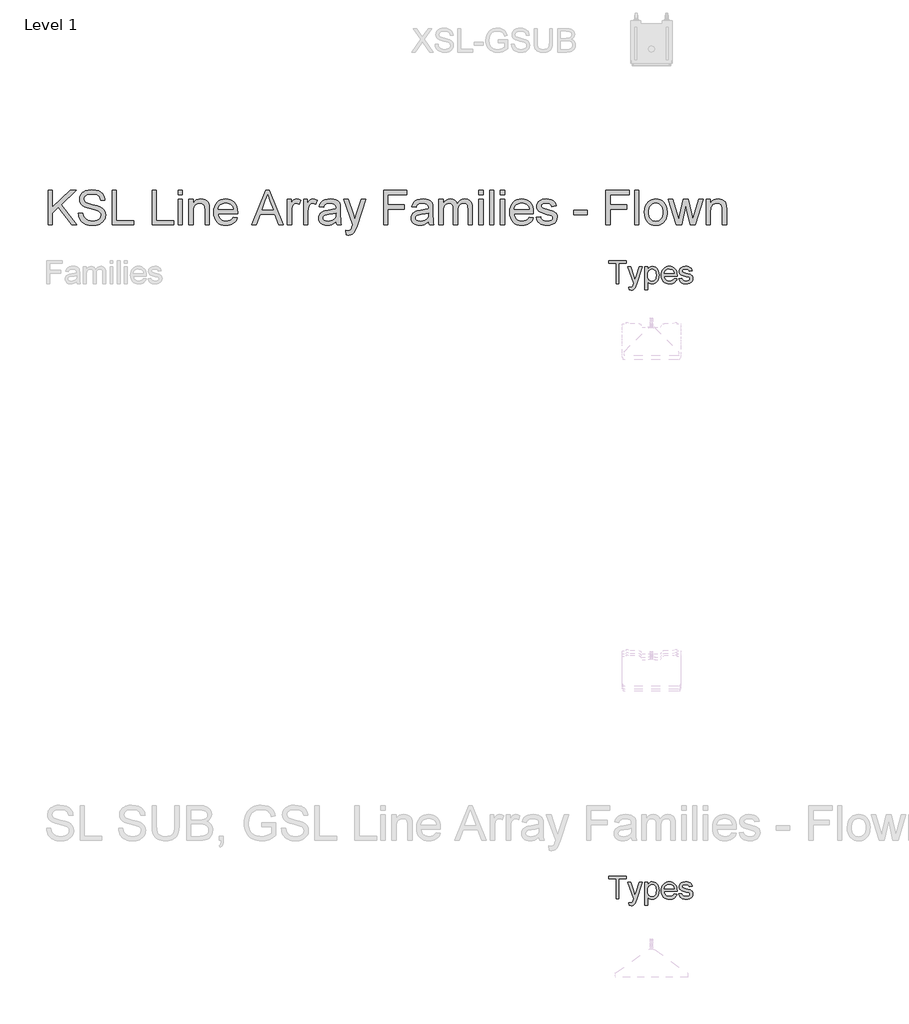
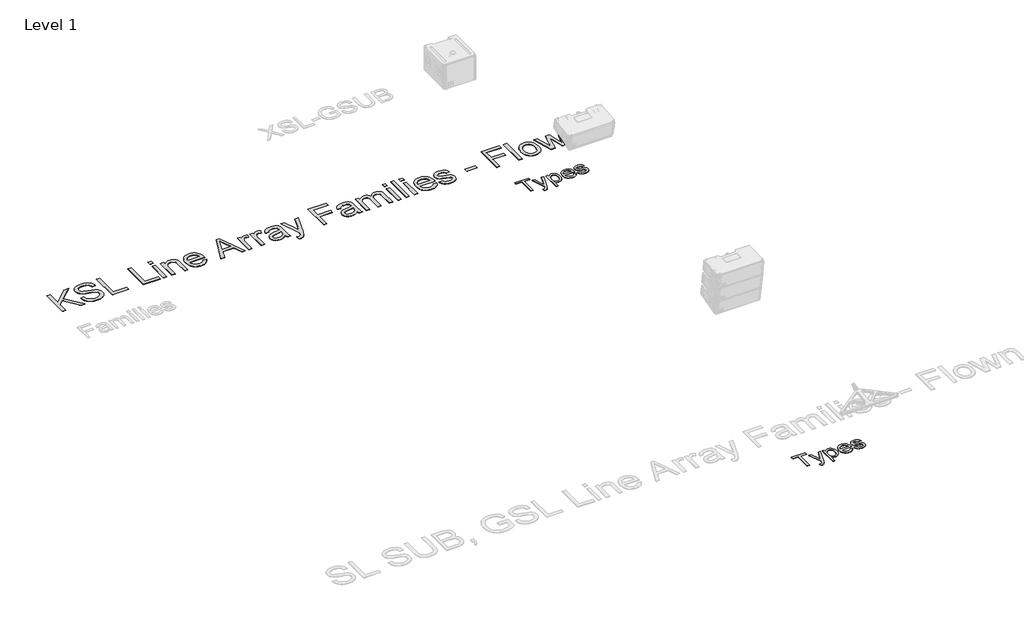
# One storey, part 26 of 52: 3 proxies.
"""IFC4 building model written with IfcOpenShell, lengths in millimetres."""

from ifc_helpers import new_model, si_unit, origin, origin_with_axes, place, context, project, spatial, polyline, outline, extrude, element, save

model = new_model("IFC4")

# Units and contexts
model_context = context("Model", 3, world=origin())
ifc_project = project(units=[si_unit("LENGTHUNIT", "METRE", prefix="MILLI")], contexts=[model_context])

# Site, building, storey
site = spatial("IfcSite", under=ifc_project)
building = spatial("IfcBuilding", under=site)
storey = spatial("IfcBuildingStorey", under=building, Name="Level 1", Elevation=0.0)

# Proxies
placement = place(None, origin())
element("IfcBuildingElementProxy", 1, Name="400mm Arial", ObjectType="400mm Arial", at=placement, inside=storey, context=model_context, shape_type="SweptSolid", body=[
    extrude(outline(polyline([(-11345.9583027, -3067.5695164), (-11345.9583027, -2724.7816376), (-11474.5037572, -2724.7816376), (-11474.5037572, -2675.8119407), (-11168.4431512, -2675.8119407), (-11168.4431512, -2724.7816376), (-11296.9886057, -2724.7816376), (-11296.9886057, -3067.5695164), (-11345.9583027, -3067.5695164)])), origin_with_axes(), (0.0, 0.0, 1.0), 5.0),
    extrude(outline(polyline([(-11119.4734542, -3177.7513346), (-11125.5946663, -3130.5988725), (-11100.7272421, -3134.9028498), (-11087.6479334, -3133.5518791), (-11077.4857648, -3129.4989672), (-11063.2348179, -3114.4350467), (-11049.8446663, -3078.3772816), (-11046.0189088, -3066.5174331), (-11150.0795148, -2779.8725467), (-11098.4317875, -2779.8725467), (-11043.2452345, -2939.5979255), (-11024.0208027, -3003.488077), (-11004.7963709, -2947.0581528), (-10948.0795148, -2779.8725467), (-10896.8143633, -2779.8725467), (-10996.9535679, -3074.4558801), (-11022.9687194, -3138.3460316), (-11036.2871379, -3158.7421017), (-11051.3749694, -3172.8734937), (-11068.9017213, -3181.1227835), (-11089.5369012, -3183.8725467), (-11119.4734542, -3177.7513346)])), origin_with_axes(), (0.0, 0.0, 1.0), 5.0),
    extrude(outline(polyline([(-10856.261333, -3177.7513346), (-10856.261333, -2779.8725467), (-10807.291636, -2779.8725467), (-10807.291636, -2827.8858043), (-10791.3190982, -2804.2019738), (-10773.4336815, -2787.284952), (-10752.5833027, -2777.134739), (-10727.7158785, -2773.7513346), (-10694.5991644, -2778.4857096), (-10665.6429618, -2792.6888346), (-10642.0667307, -2815.4999142), (-10625.0899315, -2846.0581528), (-10614.832119, -2882.1398289), (-10611.4128482, -2921.521221), (-10615.2744722, -2963.4013109), (-10626.8593444, -3000.8578687), (-10645.7968444, -3031.989971), (-10671.7163519, -3054.8966945), (-10701.9039703, -3068.99222), (-10733.6458027, -3073.6907285), (-10756.1579949, -3070.546434), (-10776.2551777, -3061.1135505), (-10793.4591313, -3046.874559), (-10807.291636, -3029.3119407), (-10807.291636, -3177.7513346), (-10856.261333, -3177.7513346)]), holes=[polyline([(-10807.291636, -2926.0164861), (-10801.9953529, -2969.9170543), (-10795.374999, -2986.9177645), (-10786.1065035, -3000.6187589), (-10762.6617828, -3018.6954634), (-10749.2447314, -3023.2146395), (-10734.697886, -3024.7210316), (-10719.9418195, -3023.1608398), (-10706.2796805, -3018.4802645), (-10682.2371853, -2999.7579634), (-10672.6757802, -2985.5608161), (-10665.8462052, -2967.9324426), (-10660.3825451, -2922.3820164), (-10665.7146947, -2878.7205581), (-10672.3798818, -2861.5883375), (-10681.7111436, -2847.5884558), (-10705.1199978, -2828.9378876), (-10718.3846166, -2824.2752456), (-10732.6893633, -2822.7210316), (-10746.9492769, -2824.3738784), (-10760.3663283, -2829.3324189), (-10784.6718444, -2849.1665808), (-10794.5680032, -2863.8867809), (-10801.6366881, -2881.6018318), (-10805.8778991, -2902.3117335), (-10807.291636, -2926.0164861)])]), origin_with_axes(), (0.0, 0.0, 1.0), 5.0),
    extrude(outline(polyline([(-10354.8958027, -2981.8725467), (-10306.8825451, -2987.9937589), (-10314.2441396, -3007.2241684), (-10324.1821427, -3024.1710789), (-10336.6965544, -3038.8344904), (-10351.7873747, -3051.2144028), (-10369.2991822, -3061.0477953), (-10389.0765555, -3068.0716471), (-10435.4279997, -3073.6907285), (-10465.8128837, -3071.2667525), (-10492.8860963, -3063.9948242), (-10516.6476375, -3051.8749437), (-10537.0975072, -3034.9071111), (-10553.5422871, -3013.5635683), (-10565.2885584, -2988.3165571), (-10572.3363212, -2959.1660777), (-10574.6855754, -2926.1121301), (-10572.3124102, -2891.937355), (-10565.1929144, -2861.8154918), (-10553.3270882, -2835.7465406), (-10536.7149315, -2813.7305013), (-10516.3188614, -2796.2396159), (-10493.1012951, -2783.7461263), (-10467.0622326, -2776.2500325), (-10438.2016739, -2773.7513346), (-10410.2706547, -2776.2440548), (-10385.0116881, -2783.7222153), (-10362.4247741, -2796.1858161), (-10342.5099125, -2813.6348573), (-10326.2534317, -2835.6030747), (-10314.6416597, -2861.6242039), (-10307.6745965, -2891.6982451), (-10305.3522421, -2925.8251982), (-10305.6391739, -2939.0240619), (-10525.7158785, -2939.0240619), (-10522.8794379, -2958.5653142), (-10517.2394343, -2975.6796017), (-10508.7958678, -2990.3669241), (-10497.5487383, -3002.6272816), (-10469.1305328, -3019.1975941), (-10434.4715603, -3024.7210316), (-10408.4085868, -3022.1625562), (-10386.4583027, -3014.4871301), (-10368.620708, -3001.2165335), (-10354.8958027, -2981.8725467)]), holes=[polyline([(-10525.7158785, -2890.0543649), (-10354.3219391, -2890.0543649), (-10360.9452819, -2864.1826793), (-10373.9289466, -2845.675577), (-10387.2832317, -2835.6329634), (-10402.4786625, -2828.4596679), (-10438.3929618, -2822.7210316), (-10471.4020764, -2827.2999852), (-10498.6964656, -2841.036846), (-10517.6698321, -2862.4491329), (-10525.7158785, -2890.0543649)])]), origin_with_axes(), (0.0, 0.0, 1.0), 5.0),
    extrude(outline(polyline([(-10274.7461815, -2981.8725467), (-10225.7764845, -2975.7513346), (-10218.0532364, -2996.6973573), (-10203.1088709, -3012.0960316), (-10180.847744, -3021.5647816), (-10151.1742118, -3024.7210316), (-10121.8593444, -3021.8278024), (-10101.2480754, -3013.1481149), (-10089.0534732, -3000.5709369), (-10084.9886057, -2985.9852361), (-10089.0773841, -2973.503702), (-10101.3437194, -2963.9871301), (-10151.7480754, -2950.0231149), (-10225.4895527, -2926.0643081), (-10244.1520764, -2914.0251272), (-10257.6737383, -2898.0884558), (-10265.8871616, -2879.2705107), (-10268.6249694, -2858.5875089), (-10266.4251588, -2839.6141424), (-10259.8257269, -2822.099346), (-10249.4244485, -2806.7365382), (-10235.8190982, -2794.2191376), (-10204.6869959, -2779.7290808), (-10162.5558406, -2773.7513346), (-10130.6824978, -2776.1543886), (-10102.9696663, -2783.3635505), (-10080.6846285, -2794.6734464), (-10065.0946663, -2809.378702), (-10054.7651209, -2828.5672674), (-10048.261333, -2853.3270922), (-10097.23103, -2859.4483043), (-10103.4120196, -2844.0376746), (-10115.6424883, -2832.4288914), (-10134.0419911, -2825.1479965), (-10158.730083, -2822.7210316), (-10186.8494012, -2825.0403971), (-10205.5956133, -2831.9984937), (-10216.1403576, -2842.0411073), (-10219.6552724, -2853.614024), (-10213.8209921, -2867.864971), (-10195.5529997, -2878.6727361), (-10153.3740224, -2889.0979255), (-10081.4976019, -2912.1481149), (-10062.51228, -2923.1710789), (-10048.1178671, -2938.2589104), (-10039.0436483, -2957.4594312), (-10036.0189088, -2980.8204634), (-10039.56969, -3004.9705581), (-10050.2220338, -3027.6859937), (-10067.5694533, -3047.1854018), (-10091.2054618, -3061.6874142), (-10119.7551777, -3070.6899), (-10151.8437194, -3073.6907285), (-10178.1996024, -3072.244114), (-10201.2199031, -3067.9042702), (-10220.9046214, -3060.6711973), (-10237.2537572, -3050.5448952), (-10250.6080423, -3037.5731859), (-10261.308208, -3021.8038914), (-10269.3542544, -3003.2370117), (-10274.7461815, -2981.8725467)])), origin_with_axes(), (0.0, 0.0, 1.0), 5.0),
])
element("IfcBuildingElementProxy", 2, Name="400mm Arial", ObjectType="400mm Arial", at=placement, inside=storey, context=model_context, shape_type="SweptSolid", body=[
    extrude(outline(polyline([(-11345.9583027, -13567.5695164), (-11345.9583027, -13224.7816376), (-11474.5037572, -13224.7816376), (-11474.5037572, -13175.8119407), (-11168.4431512, -13175.8119407), (-11168.4431512, -13224.7816376), (-11296.9886057, -13224.7816376), (-11296.9886057, -13567.5695164), (-11345.9583027, -13567.5695164)])), origin_with_axes(), (0.0, 0.0, 1.0), 5.0),
    extrude(outline(polyline([(-11119.4734542, -13677.7513346), (-11125.5946663, -13630.5988725), (-11100.7272421, -13634.9028498), (-11087.6479334, -13633.5518791), (-11077.4857648, -13629.4989672), (-11063.2348179, -13614.4350467), (-11049.8446663, -13578.3772816), (-11046.0189088, -13566.5174331), (-11150.0795148, -13279.8725467), (-11098.4317875, -13279.8725467), (-11043.2452345, -13439.5979255), (-11024.0208027, -13503.488077), (-11004.7963709, -13447.0581528), (-10948.0795148, -13279.8725467), (-10896.8143633, -13279.8725467), (-10996.9535679, -13574.4558801), (-11022.9687194, -13638.3460316), (-11036.2871379, -13658.7421017), (-11051.3749694, -13672.8734937), (-11068.9017213, -13681.1227835), (-11089.5369012, -13683.8725467), (-11119.4734542, -13677.7513346)])), origin_with_axes(), (0.0, 0.0, 1.0), 5.0),
    extrude(outline(polyline([(-10856.261333, -13677.7513346), (-10856.261333, -13279.8725467), (-10807.291636, -13279.8725467), (-10807.291636, -13327.8858043), (-10791.3190982, -13304.2019738), (-10773.4336815, -13287.284952), (-10752.5833027, -13277.134739), (-10727.7158785, -13273.7513346), (-10694.5991644, -13278.4857096), (-10665.6429618, -13292.6888346), (-10642.0667307, -13315.4999142), (-10625.0899315, -13346.0581528), (-10614.832119, -13382.1398289), (-10611.4128482, -13421.521221), (-10615.2744722, -13463.4013109), (-10626.8593444, -13500.8578687), (-10645.7968444, -13531.989971), (-10671.7163519, -13554.8966945), (-10701.9039703, -13568.99222), (-10733.6458027, -13573.6907285), (-10756.1579949, -13570.546434), (-10776.2551777, -13561.1135505), (-10793.4591313, -13546.874559), (-10807.291636, -13529.3119407), (-10807.291636, -13677.7513346), (-10856.261333, -13677.7513346)]), holes=[polyline([(-10807.291636, -13426.0164861), (-10801.9953529, -13469.9170543), (-10795.374999, -13486.9177645), (-10786.1065035, -13500.6187589), (-10762.6617828, -13518.6954634), (-10749.2447314, -13523.2146395), (-10734.697886, -13524.7210316), (-10719.9418195, -13523.1608398), (-10706.2796805, -13518.4802645), (-10682.2371853, -13499.7579634), (-10672.6757802, -13485.5608161), (-10665.8462052, -13467.9324426), (-10660.3825451, -13422.3820164), (-10665.7146947, -13378.7205581), (-10672.3798818, -13361.5883375), (-10681.7111436, -13347.5884558), (-10705.1199978, -13328.9378876), (-10718.3846166, -13324.2752456), (-10732.6893633, -13322.7210316), (-10746.9492769, -13324.3738784), (-10760.3663283, -13329.3324189), (-10784.6718444, -13349.1665808), (-10794.5680032, -13363.8867809), (-10801.6366881, -13381.6018318), (-10805.8778991, -13402.3117335), (-10807.291636, -13426.0164861)])]), origin_with_axes(), (0.0, 0.0, 1.0), 5.0),
    extrude(outline(polyline([(-10354.8958027, -13481.8725467), (-10306.8825451, -13487.9937589), (-10314.2441396, -13507.2241684), (-10324.1821427, -13524.1710789), (-10336.6965544, -13538.8344904), (-10351.7873747, -13551.2144028), (-10369.2991822, -13561.0477953), (-10389.0765555, -13568.0716471), (-10435.4279997, -13573.6907285), (-10465.8128837, -13571.2667525), (-10492.8860963, -13563.9948242), (-10516.6476375, -13551.8749437), (-10537.0975072, -13534.9071111), (-10553.5422871, -13513.5635683), (-10565.2885584, -13488.3165571), (-10572.3363212, -13459.1660777), (-10574.6855754, -13426.1121301), (-10572.3124102, -13391.937355), (-10565.1929144, -13361.8154918), (-10553.3270882, -13335.7465406), (-10536.7149315, -13313.7305013), (-10516.3188614, -13296.2396159), (-10493.1012951, -13283.7461263), (-10467.0622326, -13276.2500325), (-10438.2016739, -13273.7513346), (-10410.2706547, -13276.2440548), (-10385.0116881, -13283.7222153), (-10362.4247741, -13296.1858161), (-10342.5099125, -13313.6348573), (-10326.2534317, -13335.6030747), (-10314.6416597, -13361.6242039), (-10307.6745965, -13391.6982451), (-10305.3522421, -13425.8251982), (-10305.6391739, -13439.0240619), (-10525.7158785, -13439.0240619), (-10522.8794379, -13458.5653142), (-10517.2394343, -13475.6796017), (-10508.7958678, -13490.3669241), (-10497.5487383, -13502.6272816), (-10469.1305328, -13519.1975941), (-10434.4715603, -13524.7210316), (-10408.4085868, -13522.1625562), (-10386.4583027, -13514.4871301), (-10368.620708, -13501.2165335), (-10354.8958027, -13481.8725467)]), holes=[polyline([(-10525.7158785, -13390.0543649), (-10354.3219391, -13390.0543649), (-10360.9452819, -13364.1826793), (-10373.9289466, -13345.675577), (-10387.2832317, -13335.6329634), (-10402.4786625, -13328.4596679), (-10438.3929618, -13322.7210316), (-10471.4020764, -13327.2999852), (-10498.6964656, -13341.036846), (-10517.6698321, -13362.4491329), (-10525.7158785, -13390.0543649)])]), origin_with_axes(), (0.0, 0.0, 1.0), 5.0),
    extrude(outline(polyline([(-10274.7461815, -13481.8725467), (-10225.7764845, -13475.7513346), (-10218.0532364, -13496.6973573), (-10203.1088709, -13512.0960316), (-10180.847744, -13521.5647816), (-10151.1742118, -13524.7210316), (-10121.8593444, -13521.8278024), (-10101.2480754, -13513.1481149), (-10089.0534732, -13500.5709369), (-10084.9886057, -13485.9852361), (-10089.0773841, -13473.503702), (-10101.3437194, -13463.9871301), (-10151.7480754, -13450.0231149), (-10225.4895527, -13426.0643081), (-10244.1520764, -13414.0251272), (-10257.6737383, -13398.0884558), (-10265.8871616, -13379.2705107), (-10268.6249694, -13358.5875089), (-10266.4251588, -13339.6141424), (-10259.8257269, -13322.099346), (-10249.4244485, -13306.7365382), (-10235.8190982, -13294.2191376), (-10204.6869959, -13279.7290808), (-10162.5558406, -13273.7513346), (-10130.6824978, -13276.1543886), (-10102.9696663, -13283.3635505), (-10080.6846285, -13294.6734464), (-10065.0946663, -13309.378702), (-10054.7651209, -13328.5672674), (-10048.261333, -13353.3270922), (-10097.23103, -13359.4483043), (-10103.4120196, -13344.0376746), (-10115.6424883, -13332.4288914), (-10134.0419911, -13325.1479965), (-10158.730083, -13322.7210316), (-10186.8494012, -13325.0403971), (-10205.5956133, -13331.9984937), (-10216.1403576, -13342.0411073), (-10219.6552724, -13353.614024), (-10213.8209921, -13367.864971), (-10195.5529997, -13378.6727361), (-10153.3740224, -13389.0979255), (-10081.4976019, -13412.1481149), (-10062.51228, -13423.1710789), (-10048.1178671, -13438.2589104), (-10039.0436483, -13457.4594312), (-10036.0189088, -13480.8204634), (-10039.56969, -13504.9705581), (-10050.2220338, -13527.6859937), (-10067.5694533, -13547.1854018), (-10091.2054618, -13561.6874142), (-10119.7551777, -13570.6899), (-10151.8437194, -13573.6907285), (-10178.1996024, -13572.244114), (-10201.2199031, -13567.9042702), (-10220.9046214, -13560.6711973), (-10237.2537572, -13550.5448952), (-10250.6080423, -13537.5731859), (-10261.308208, -13521.8038914), (-10269.3542544, -13503.2370117), (-10274.7461815, -13481.8725467)])), origin_with_axes(), (0.0, 0.0, 1.0), 5.0),
])
element("IfcBuildingElementProxy", 3, Name="600mm Arial", ObjectType="600mm Arial", at=placement, inside=storey, context=model_context, shape_type="SweptSolid", body=[
    extrude(outline(polyline([(-21034.9539913, -2067.5695164), (-21034.9539913, -1476.8002857), (-20961.1078374, -1476.8002857), (-20961.1078374, -1765.982978), (-20658.223222, -1476.8002857), (-20554.9539913, -1476.8002857), (-20809.2328374, -1719.684901), (-20545.723222, -2067.5695164), (-20636.0116836, -2067.5695164), (-20861.5886067, -1769.5887472), (-20961.1078374, -1864.4925934), (-20961.1078374, -2067.5695164), (-21034.9539913, -2067.5695164)])), origin_with_axes(), (0.0, 0.0, 1.0), 5.0),
    extrude(outline(polyline([(-20518.0309143, -1864.4925934), (-20444.1847605, -1864.4925934), (-20435.7112028, -1905.4721607), (-20420.3866836, -1938.4108626), (-20396.4804336, -1964.5526895), (-20362.2616836, -1985.1416318), (-20320.4347605, -1998.5010068), (-20273.7039913, -2002.9541318), (-20232.5621643, -1999.5827376), (-20196.5405297, -1989.4685549), (-20167.3518278, -1973.4589395), (-20146.708799, -1952.4012472), (-20134.4311547, -1928.2245645), (-20130.3386067, -1902.857978), (-20133.4035105, -1878.1404299), (-20142.598222, -1856.7762472), (-20161.2761067, -1838.5490837), (-20192.7905297, -1823.2425934), (-20300.3145682, -1795.045478), (-20370.8975009, -1776.3856222), (-20416.0597605, -1758.6272087), (-20452.8205778, -1733.7834587), (-20478.8722605, -1703.6752857), (-20494.395097, -1668.951728), (-20499.5693759, -1630.2618241), (-20497.9693158, -1608.271139), (-20493.1691355, -1587.0106222), (-20485.168835, -1566.4802736), (-20473.9684143, -1546.6800934), (-20459.6940754, -1528.4168722), (-20442.4720201, -1512.497401), (-20422.3022485, -1498.9216799), (-20399.1847605, -1487.6897087), (-20347.2256259, -1472.5995645), (-20289.7136067, -1467.5695164), (-20227.4059143, -1472.8339395), (-20172.8866836, -1488.6272087), (-20149.0345201, -1500.3910309), (-20128.1030297, -1514.6248049), (-20110.0922124, -1531.3285309), (-20095.0020682, -1550.5022087), (-20082.9497845, -1571.5869443), (-20074.052549, -1594.0238434), (-20068.3103615, -1617.8129059), (-20065.723222, -1642.9541318), (-20139.5693759, -1642.9541318), (-20144.5092797, -1619.3904299), (-20153.1270682, -1598.8916318), (-20165.4227413, -1581.4577376), (-20181.396299, -1567.0887472), (-20201.3452172, -1555.856776), (-20225.566972, -1547.8339395), (-20254.0615634, -1543.0202376), (-20286.8289913, -1541.4156703), (-20320.6420922, -1543.0022087), (-20349.5333182, -1547.7618241), (-20373.5026692, -1555.6945164), (-20392.5501451, -1566.8002857), (-20407.0633663, -1580.1506462), (-20417.4299528, -1594.8171126), (-20423.6499047, -1610.7996847), (-20425.723222, -1628.0983626), (-20419.8458182, -1656.4757664), (-20402.2136067, -1679.3002857), (-20386.0237028, -1689.450526), (-20360.5309143, -1699.7089395), (-20281.6366836, -1720.5502857), (-20200.2184143, -1740.3459587), (-20150.9636067, -1757.6175934), (-20108.8662509, -1784.4084587), (-20092.59071, -1800.1566559), (-20079.4972605, -1817.4733626), (-20069.4326571, -1836.2684347), (-20062.2436547, -1856.451728), (-20056.4924528, -1900.982978), (-20058.1465994, -1924.0824371), (-20063.1090393, -1946.5058145), (-20071.3797725, -1968.2531102), (-20082.958799, -1989.3243241), (-20097.6432942, -2008.903651), (-20115.2304336, -2026.1752857), (-20135.7202172, -2041.139228), (-20159.1126451, -2053.795478), (-20184.7271283, -2063.8600813), (-20211.8830778, -2071.0490837), (-20270.8193759, -2076.8002857), (-20308.5943158, -2075.2498049), (-20343.1691355, -2070.5983626), (-20374.543835, -2062.8459587), (-20402.7184143, -2051.9925934), (-20427.8641475, -2038.0202376), (-20450.1523086, -2020.9108626), (-20469.5828975, -2000.6644684), (-20486.1559143, -1977.2810549), (-20499.5062749, -1951.5178337), (-20509.2688951, -1924.1320164), (-20515.4437749, -1895.123603), (-20518.0309143, -1864.4925934)])), origin_with_axes(), (0.0, 0.0, 1.0), 5.0),
    extrude(outline(polyline([(-19945.723222, -2067.5695164), (-19945.723222, -1476.8002857), (-19871.8770682, -1476.8002857), (-19871.8770682, -1993.7233626), (-19576.4924528, -1993.7233626), (-19576.4924528, -2067.5695164), (-19945.723222, -2067.5695164)])), origin_with_axes(), (0.0, 0.0, 1.0), 5.0),
    extrude(outline(polyline([(-19262.646299, -2067.5695164), (-19262.646299, -1476.8002857), (-19188.8001451, -1476.8002857), (-19188.8001451, -1993.7233626), (-18893.4155297, -1993.7233626), (-18893.4155297, -2067.5695164), (-19262.646299, -2067.5695164)])), origin_with_axes(), (0.0, 0.0, 1.0), 5.0),
    extrude(outline(polyline([(-18819.5693759, -1550.6464395), (-18819.5693759, -1476.8002857), (-18745.723222, -1476.8002857), (-18745.723222, -1550.6464395), (-18819.5693759, -1550.6464395)])), origin_with_axes(), (0.0, 0.0, 1.0), 5.0),
    extrude(outline(polyline([(-18819.5693759, -2067.5695164), (-18819.5693759, -1633.7233626), (-18745.723222, -1633.7233626), (-18745.723222, -2067.5695164), (-18819.5693759, -2067.5695164)])), origin_with_axes(), (0.0, 0.0, 1.0), 5.0),
    extrude(outline(polyline([(-18634.9539913, -2067.5695164), (-18634.9539913, -1633.7233626), (-18561.1078374, -1633.7233626), (-18561.1078374, -1694.3002857), (-18535.4527893, -1663.7594203), (-18504.6414913, -1641.9445164), (-18468.6739432, -1628.8555741), (-18427.5501451, -1624.4925934), (-18391.1499047, -1628.0082184), (-18357.8145682, -1638.5550934), (-18330.0140874, -1654.8171126), (-18310.2184143, -1675.4781703), (-18296.786924, -1700.4841799), (-18288.0789913, -1729.7810549), (-18284.1847605, -1801.1752857), (-18284.1847605, -2067.5695164), (-18358.0309143, -2067.5695164), (-18358.0309143, -1811.1272087), (-18360.1583182, -1772.9421126), (-18366.5405297, -1745.7906703), (-18378.3133663, -1726.3375453), (-18396.6126451, -1711.247401), (-18420.068174, -1701.5659107), (-18447.3097605, -1698.3387472), (-18469.7331379, -1700.1506462), (-18490.5609624, -1705.5863434), (-18509.7932341, -1714.6458385), (-18527.4299528, -1727.3291318), (-18542.1640273, -1745.0785309), (-18552.6883663, -1769.3363434), (-18559.0029696, -1800.1025693), (-18561.1078374, -1837.3772087), (-18561.1078374, -2067.5695164), (-18634.9539913, -2067.5695164)])), origin_with_axes(), (0.0, 0.0, 1.0), 5.0),
    extrude(outline(polyline([(-17878.896299, -1938.3387472), (-17806.4924528, -1947.5695164), (-17817.5937148, -1976.5689155), (-17832.5801932, -2002.1248049), (-17851.4518879, -2024.2371847), (-17874.208799, -2042.9060549), (-17900.6165514, -2057.7347809), (-17930.4407701, -2068.326728), (-17963.6814552, -2074.6818962), (-18000.3386067, -2076.8002857), (-18046.1589192, -2073.1449371), (-18086.9852413, -2062.1788914), (-18122.817573, -2043.9021486), (-18153.6559143, -2018.3147087), (-18178.4545922, -1986.1287111), (-18196.1679336, -1948.0562953), (-18206.7959384, -1904.0974611), (-18210.3386067, -1854.2522087), (-18206.7598807, -1802.716752), (-18196.0237028, -1757.2930741), (-18178.130073, -1717.9811751), (-18153.0789913, -1684.7810549), (-18122.3217797, -1658.404853), (-18087.3097605, -1639.5647087), (-18048.0429336, -1628.2606222), (-18004.521299, -1624.4925934), (-17962.4014071, -1628.2516078), (-17924.3109624, -1639.528651), (-17890.2499648, -1658.3237232), (-17860.2184143, -1684.6368241), (-17835.7036908, -1717.7648289), (-17818.193174, -1757.0046126), (-17807.6868639, -1802.3561751), (-17804.1847605, -1853.8195164), (-17804.6174528, -1873.7233626), (-18136.4924528, -1873.7233626), (-18132.2151091, -1903.1915116), (-18123.7100009, -1928.9998049), (-18110.9771283, -1951.1482424), (-18094.0164913, -1969.6368241), (-18073.7655898, -1984.2131462), (-18051.161924, -1994.6248049), (-18026.2054937, -2000.8718001), (-17998.896299, -2002.9541318), (-17959.5934143, -1999.0959587), (-17926.4924528, -1987.5214395), (-17899.5934143, -1967.5094203), (-17878.896299, -1938.3387472)]), holes=[polyline([(-18136.4924528, -1799.8772087), (-17878.0309143, -1799.8772087), (-17888.0188951, -1760.8627857), (-17896.6096403, -1745.5202376), (-17907.598222, -1732.9541318), (-17927.7364432, -1717.809901), (-17950.6511067, -1706.9925934), (-17976.3422124, -1700.5022087), (-18004.8097605, -1698.3387472), (-18030.7758062, -1700.0650092), (-18054.5874047, -1705.2437953), (-18076.2445562, -1713.8751054), (-18095.7472605, -1725.9589395), (-18112.1129456, -1740.9364034), (-18124.3590393, -1758.248603), (-18132.4855417, -1777.8955381), (-18136.4924528, -1799.8772087)])]), origin_with_axes(), (0.0, 0.0, 1.0), 5.0),
    extrude(outline(polyline([(-17559.1366836, -2067.5695164), (-17323.3193759, -1476.8002857), (-17260.4347605, -1476.8002857), (-17024.6174528, -2067.5695164), (-17102.646299, -2067.5695164), (-17170.2905297, -1882.9541318), (-17413.6078374, -1882.9541318), (-17481.1078374, -2067.5695164), (-17559.1366836, -2067.5695164)]), holes=[polyline([(-17386.4924528, -1809.107978), (-17197.2616836, -1809.107978), (-17250.4828374, -1663.8675934), (-17291.8770682, -1550.6464395), (-17328.6559143, -1651.1752857), (-17386.4924528, -1809.107978)])]), origin_with_axes(), (0.0, 0.0, 1.0), 5.0),
    extrude(outline(polyline([(-16954.9539913, -2067.5695164), (-16954.9539913, -1633.7233626), (-16890.3386067, -1633.7233626), (-16890.3386067, -1697.9060549), (-16866.4684143, -1660.6945164), (-16844.473222, -1638.7714395), (-16822.4059143, -1628.0623049), (-16798.3193759, -1624.4925934), (-16761.5405297, -1630.1897087), (-16724.1847605, -1647.2810549), (-16748.848222, -1713.482978), (-16774.8097605, -1702.1248049), (-16800.771299, -1698.3387472), (-16822.8205778, -1701.9805741), (-16842.5261067, -1712.9060549), (-16858.4455778, -1730.2858626), (-16869.1366836, -1753.2906703), (-16878.115049, -1794.5406703), (-16881.1078374, -1839.5406703), (-16881.1078374, -2067.5695164), (-16954.9539913, -2067.5695164)])), origin_with_axes(), (0.0, 0.0, 1.0), 5.0),
    extrude(outline(polyline([(-16678.0309143, -2067.5695164), (-16678.0309143, -1633.7233626), (-16613.4155297, -1633.7233626), (-16613.4155297, -1697.9060549), (-16589.5453374, -1660.6945164), (-16567.5501451, -1638.7714395), (-16545.4828374, -1628.0623049), (-16521.396299, -1624.4925934), (-16484.6174528, -1630.1897087), (-16447.2616836, -1647.2810549), (-16471.9251451, -1713.482978), (-16497.8866836, -1702.1248049), (-16523.848222, -1698.3387472), (-16545.8975009, -1701.9805741), (-16565.6030297, -1712.9060549), (-16581.5225009, -1730.2858626), (-16592.2136067, -1753.2906703), (-16601.191972, -1794.5406703), (-16604.1847605, -1839.5406703), (-16604.1847605, -2067.5695164), (-16678.0309143, -2067.5695164)])), origin_with_axes(), (0.0, 0.0, 1.0), 5.0),
    extrude(outline(polyline([(-16124.1847605, -2012.184901), (-16159.4672124, -2042.4373049), (-16195.7953374, -2062.232978), (-16233.9984624, -2073.1584587), (-16274.9059143, -2076.8002857), (-16307.7860225, -2074.6097809), (-16336.6186547, -2068.0382664), (-16361.403811, -2057.0857424), (-16382.1414913, -2041.7522087), (-16398.5161908, -2023.0112232), (-16410.2124047, -2001.8363434), (-16417.2301331, -1978.2275693), (-16419.5693759, -1952.184901), (-16416.035722, -1921.5719203), (-16405.4347605, -1893.7714395), (-16389.082597, -1869.9733626), (-16368.2953374, -1851.3675934), (-16343.8662509, -1837.3050934), (-16316.5886067, -1827.1368241), (-16252.6943759, -1816.0310549), (-16177.1895682, -1804.3483626), (-16124.6174528, -1790.6464395), (-16124.1847605, -1774.2041318), (-16129.2688951, -1741.247401), (-16135.6240634, -1729.0418722), (-16144.521299, -1719.684901), (-16159.8999047, -1710.3459587), (-16178.6318759, -1703.6752857), (-16226.1559143, -1698.3387472), (-16270.146299, -1701.8904299), (-16300.8674528, -1712.545478), (-16321.816972, -1732.2510068), (-16336.4924528, -1762.9541318), (-16410.3386067, -1753.7233626), (-16397.520097, -1713.3387472), (-16378.3914913, -1681.607978), (-16351.1679336, -1657.341151), (-16314.0645682, -1639.3483626), (-16268.6859624, -1628.2065357), (-16216.6366836, -1624.4925934), (-16166.7148086, -1627.7738434), (-16127.1414913, -1637.6175934), (-16097.3037509, -1652.419276), (-16076.5886067, -1670.5743241), (-16062.8506259, -1693.0202376), (-16053.9443759, -1720.6945164), (-16050.3386067, -1785.309901), (-16050.3386067, -1877.184901), (-16046.5886067, -2005.4781703), (-16041.035722, -2037.1909107), (-16031.8770682, -2067.5695164), (-16105.723222, -2067.5695164), (-16117.5501451, -2041.8964395), (-16124.1847605, -2012.184901)]), holes=[polyline([(-16124.1847605, -1864.4925934), (-16173.8001451, -1876.7882664), (-16243.3193759, -1887.1368241), (-16306.8530297, -1899.107978), (-16323.3854817, -1907.2930741), (-16335.6270682, -1918.5791318), (-16343.1991836, -1932.1007664), (-16345.723222, -1946.9925934), (-16340.224424, -1968.951728), (-16323.7280297, -1986.9445164), (-16296.5946163, -1998.951728), (-16259.1847605, -2002.9541318), (-16219.521299, -1998.5370645), (-16184.473222, -1985.2858626), (-16156.0597605, -1965.7606222), (-16136.3001451, -1942.5214395), (-16127.5381259, -1918.5791318), (-16124.6174528, -1885.4060549), (-16124.1847605, -1864.4925934)])]), origin_with_axes(), (0.0, 0.0, 1.0), 5.0),
    extrude(outline(polyline([(-15948.8001451, -2233.7233626), (-15958.0309143, -2162.6175934), (-15920.5309143, -2169.107978), (-15900.8073567, -2167.0707184), (-15885.4828374, -2160.9589395), (-15873.5477413, -2151.2053337), (-15863.9924528, -2138.2425934), (-15843.8001451, -2083.8675934), (-15838.0309143, -2065.982978), (-15994.9539913, -1633.7233626), (-15917.0693759, -1633.7233626), (-15833.848222, -1874.5887472), (-15804.8578374, -1970.934901), (-15775.8674528, -1885.8387472), (-15690.3386067, -1633.7233626), (-15613.0309143, -1633.7233626), (-15764.0405297, -2077.9541318), (-15803.271299, -2174.3002857), (-15823.3554336, -2205.0574972), (-15846.1078374, -2226.3675934), (-15872.5381259, -2238.8074972), (-15903.6559143, -2242.9541318), (-15925.0381259, -2240.6464395), (-15948.8001451, -2233.7233626)])), origin_with_axes(), (0.0, 0.0, 1.0), 5.0),
    extrude(outline(polyline([(-15311.8770682, -2067.5695164), (-15311.8770682, -1476.8002857), (-14914.9539913, -1476.8002857), (-14914.9539913, -1550.6464395), (-15238.0309143, -1550.6464395), (-15238.0309143, -1726.0310549), (-14961.1078374, -1726.0310549), (-14961.1078374, -1799.8772087), (-15238.0309143, -1799.8772087), (-15238.0309143, -2067.5695164), (-15311.8770682, -2067.5695164)])), origin_with_axes(), (0.0, 0.0, 1.0), 5.0),
    extrude(outline(polyline([(-14545.723222, -2012.184901), (-14581.005674, -2042.4373049), (-14617.333799, -2062.232978), (-14655.536924, -2073.1584587), (-14696.4443759, -2076.8002857), (-14729.3244841, -2074.6097809), (-14758.1571163, -2068.0382664), (-14782.9422725, -2057.0857424), (-14803.6799528, -2041.7522087), (-14820.0546523, -2023.0112232), (-14831.7508663, -2001.8363434), (-14838.7685946, -1978.2275693), (-14841.1078374, -1952.184901), (-14837.5741836, -1921.5719203), (-14826.973222, -1893.7714395), (-14810.6210586, -1869.9733626), (-14789.833799, -1851.3675934), (-14765.4047124, -1837.3050934), (-14738.1270682, -1827.1368241), (-14674.2328374, -1816.0310549), (-14598.7280297, -1804.3483626), (-14546.1559143, -1790.6464395), (-14545.723222, -1774.2041318), (-14550.8073567, -1741.247401), (-14557.1625249, -1729.0418722), (-14566.0597605, -1719.684901), (-14581.4383663, -1710.3459587), (-14600.1703374, -1703.6752857), (-14647.6943759, -1698.3387472), (-14691.6847605, -1701.8904299), (-14722.4059143, -1712.545478), (-14743.3554336, -1732.2510068), (-14758.0309143, -1762.9541318), (-14831.8770682, -1753.7233626), (-14819.0585586, -1713.3387472), (-14799.9299528, -1681.607978), (-14772.7063951, -1657.341151), (-14735.6030297, -1639.3483626), (-14690.224424, -1628.2065357), (-14638.1751451, -1624.4925934), (-14588.2532701, -1627.7738434), (-14548.6799528, -1637.6175934), (-14518.8422124, -1652.419276), (-14498.1270682, -1670.5743241), (-14484.3890874, -1693.0202376), (-14475.4828374, -1720.6945164), (-14471.8770682, -1785.309901), (-14471.8770682, -1877.184901), (-14468.1270682, -2005.4781703), (-14462.5741836, -2037.1909107), (-14453.4155297, -2067.5695164), (-14527.2616836, -2067.5695164), (-14539.0886067, -2041.8964395), (-14545.723222, -2012.184901)]), holes=[polyline([(-14545.723222, -1864.4925934), (-14595.3386067, -1876.7882664), (-14664.8578374, -1887.1368241), (-14728.3914913, -1899.107978), (-14744.9239432, -1907.2930741), (-14757.1655297, -1918.5791318), (-14764.7376451, -1932.1007664), (-14767.2616836, -1946.9925934), (-14761.7628855, -1968.951728), (-14745.2664913, -1986.9445164), (-14718.1330778, -1998.951728), (-14680.723222, -2002.9541318), (-14641.0597605, -1998.5370645), (-14606.0116836, -1985.2858626), (-14577.598222, -1965.7606222), (-14557.8386067, -1942.5214395), (-14549.0765874, -1918.5791318), (-14546.1559143, -1885.4060549), (-14545.723222, -1864.4925934)])]), origin_with_axes(), (0.0, 0.0, 1.0), 5.0),
    extrude(outline(polyline([(-14370.3386067, -2067.5695164), (-14370.3386067, -1633.7233626), (-14296.4924528, -1633.7233626), (-14296.4924528, -1705.1175934), (-14274.2809143, -1672.3231222), (-14245.723222, -1646.6320164), (-14211.7929336, -1630.0274491), (-14173.4636067, -1624.4925934), (-14132.3938951, -1630.1356222), (-14114.9149288, -1637.1894083), (-14099.473222, -1647.0647087), (-14074.8818759, -1674.1620645), (-14058.8001451, -1710.309901), (-14031.8830778, -1672.7648289), (-14001.1799528, -1645.9469203), (-13966.6907701, -1629.8561751), (-13928.4155297, -1624.4925934), (-13898.8527292, -1626.7236631), (-13872.9047124, -1633.4168722), (-13850.5714792, -1644.5722208), (-13831.8530297, -1660.1897087), (-13817.0558542, -1680.4496246), (-13806.4864432, -1705.5322568), (-13800.1447966, -1735.4376054), (-13798.0309143, -1770.1656703), (-13798.0309143, -2067.5695164), (-13871.8770682, -2067.5695164), (-13871.8770682, -1801.8964395), (-13873.5898086, -1765.0635068), (-13878.7280297, -1740.2377857), (-13888.3554336, -1723.2365837), (-13903.535722, -1709.8772087), (-13923.0609624, -1701.2233626), (-13945.723222, -1698.3387472), (-13966.6502052, -1700.1867039), (-13985.7292317, -1705.7305741), (-14002.9603014, -1714.9703578), (-14018.3434143, -1727.9060549), (-14030.9951571, -1744.9162712), (-14040.0321163, -1766.3796126), (-14045.4542917, -1792.2960789), (-14047.2616836, -1822.6656703), (-14047.2616836, -2067.5695164), (-14121.1078374, -2067.5695164), (-14121.1078374, -1793.6752857), (-14125.380674, -1751.920478), (-14138.1991836, -1722.1368241), (-14148.1105417, -1711.7251655), (-14160.7532701, -1704.2882664), (-14176.1273687, -1699.826127), (-14194.2328374, -1698.3387472), (-14222.6823567, -1702.3050934), (-14248.896299, -1714.2041318), (-14270.5309143, -1733.747401), (-14285.2424528, -1760.6464395), (-14293.6799528, -1797.966151), (-14296.4924528, -1848.7714395), (-14296.4924528, -2067.5695164), (-14370.3386067, -2067.5695164)])), origin_with_axes(), (0.0, 0.0, 1.0), 5.0),
    extrude(outline(polyline([(-13687.2616836, -1550.6464395), (-13687.2616836, -1476.8002857), (-13613.4155297, -1476.8002857), (-13613.4155297, -1550.6464395), (-13687.2616836, -1550.6464395)])), origin_with_axes(), (0.0, 0.0, 1.0), 5.0),
    extrude(outline(polyline([(-13687.2616836, -2067.5695164), (-13687.2616836, -1633.7233626), (-13613.4155297, -1633.7233626), (-13613.4155297, -2067.5695164), (-13687.2616836, -2067.5695164)])), origin_with_axes(), (0.0, 0.0, 1.0), 5.0),
    extrude(outline(polyline([(-13502.646299, -2067.5695164), (-13502.646299, -1476.8002857), (-13428.8001451, -1476.8002857), (-13428.8001451, -2067.5695164), (-13502.646299, -2067.5695164)])), origin_with_axes(), (0.0, 0.0, 1.0), 5.0),
    extrude(outline(polyline([(-13318.0309143, -1550.6464395), (-13318.0309143, -1476.8002857), (-13244.1847605, -1476.8002857), (-13244.1847605, -1550.6464395), (-13318.0309143, -1550.6464395)])), origin_with_axes(), (0.0, 0.0, 1.0), 5.0),
    extrude(outline(polyline([(-13318.0309143, -2067.5695164), (-13318.0309143, -1633.7233626), (-13244.1847605, -1633.7233626), (-13244.1847605, -2067.5695164), (-13318.0309143, -2067.5695164)])), origin_with_axes(), (0.0, 0.0, 1.0), 5.0),
    extrude(outline(polyline([(-12829.6655297, -1938.3387472), (-12757.2616836, -1947.5695164), (-12768.3629456, -1976.5689155), (-12783.349424, -2002.1248049), (-12802.2211187, -2024.2371847), (-12824.9780297, -2042.9060549), (-12851.3857821, -2057.7347809), (-12881.2100009, -2068.326728), (-12914.450686, -2074.6818962), (-12951.1078374, -2076.8002857), (-12996.9281499, -2073.1449371), (-13037.754472, -2062.1788914), (-13073.5868038, -2043.9021486), (-13104.4251451, -2018.3147087), (-13129.223823, -1986.1287111), (-13146.9371643, -1948.0562953), (-13157.5651692, -1904.0974611), (-13161.1078374, -1854.2522087), (-13157.5291115, -1802.716752), (-13146.7929336, -1757.2930741), (-13128.8993038, -1717.9811751), (-13103.848222, -1684.7810549), (-13073.0910105, -1658.404853), (-13038.0789913, -1639.5647087), (-12998.8121643, -1628.2606222), (-12955.2905297, -1624.4925934), (-12913.1706379, -1628.2516078), (-12875.0801932, -1639.528651), (-12841.0191956, -1658.3237232), (-12810.9876451, -1684.6368241), (-12786.4729216, -1717.7648289), (-12768.9624047, -1757.0046126), (-12758.4560946, -1802.3561751), (-12754.9539913, -1853.8195164), (-12755.3866836, -1873.7233626), (-13087.2616836, -1873.7233626), (-13082.9843398, -1903.1915116), (-13074.4792317, -1928.9998049), (-13061.7463591, -1951.1482424), (-13044.785722, -1969.6368241), (-13024.5348206, -1984.2131462), (-13001.9311547, -1994.6248049), (-12976.9747244, -2000.8718001), (-12949.6655297, -2002.9541318), (-12910.3626451, -1999.0959587), (-12877.2616836, -1987.5214395), (-12850.3626451, -1967.5094203), (-12829.6655297, -1938.3387472)]), holes=[polyline([(-13087.2616836, -1799.8772087), (-12828.8001451, -1799.8772087), (-12838.7881259, -1760.8627857), (-12847.3788711, -1745.5202376), (-12858.3674528, -1732.9541318), (-12878.505674, -1717.809901), (-12901.4203374, -1706.9925934), (-12927.1114432, -1700.5022087), (-12955.5789913, -1698.3387472), (-12981.5450369, -1700.0650092), (-13005.3566355, -1705.2437953), (-13027.0137869, -1713.8751054), (-13046.5164913, -1725.9589395), (-13062.8821764, -1740.9364034), (-13075.1282701, -1758.248603), (-13083.2547725, -1777.8955381), (-13087.2616836, -1799.8772087)])]), origin_with_axes(), (0.0, 0.0, 1.0), 5.0),
    extrude(outline(polyline([(-12708.8001451, -1938.3387472), (-12634.9539913, -1929.107978), (-12630.4918518, -1945.9469203), (-12623.3073567, -1960.6945164), (-12613.4005057, -1973.3507664), (-12600.771299, -1983.9156703), (-12585.3836788, -1992.2449972), (-12567.2015874, -1998.1945164), (-12522.4539913, -2002.9541318), (-12478.2472605, -1998.591151), (-12461.0657701, -1993.1374251), (-12447.1655297, -1985.5022087), (-12428.7761067, -1966.5358626), (-12422.646299, -1944.5406703), (-12424.1877653, -1934.5707184), (-12428.8121643, -1925.7185549), (-12447.3097605, -1911.3675934), (-12474.9660105, -1901.9925934), (-12523.3193759, -1890.309901), (-12590.7112028, -1870.8207184), (-12634.521299, -1854.1800934), (-12662.6643278, -1836.0250453), (-12683.0549528, -1811.9925934), (-12695.4407701, -1783.6151895), (-12699.5693759, -1752.4252857), (-12696.2520682, -1723.8135068), (-12686.3001451, -1697.4012472), (-12670.615049, -1674.2341799), (-12650.098222, -1655.357978), (-12629.707597, -1643.4769684), (-12603.1511067, -1633.5070164), (-12572.4479817, -1626.7461991), (-12539.6174528, -1624.4925934), (-12491.552549, -1628.1163914), (-12449.7616836, -1638.9877857), (-12416.1559143, -1656.0430741), (-12392.646299, -1678.2185549), (-12377.0693759, -1707.154853), (-12367.2616836, -1744.4925934), (-12441.1078374, -1753.7233626), (-12450.4287509, -1730.4841799), (-12468.8722605, -1712.9781703), (-12496.6186547, -1701.998603), (-12533.848222, -1698.3387472), (-12576.2520682, -1701.8363434), (-12604.521299, -1712.3291318), (-12620.4227413, -1727.4733626), (-12625.723222, -1744.9252857), (-12623.5237028, -1756.2834587), (-12616.9251451, -1766.4156703), (-12605.6390874, -1775.466151), (-12589.3770682, -1782.7137472), (-12525.771299, -1798.434901), (-12417.3818759, -1833.1945164), (-12388.7520682, -1849.8171126), (-12367.0453374, -1872.5695164), (-12353.3614432, -1901.5238434), (-12348.8001451, -1936.7522087), (-12354.1547124, -1973.170478), (-12370.2184143, -2007.4252857), (-12396.3782701, -2036.8303337), (-12432.021299, -2058.6993241), (-12475.0741836, -2072.2750453), (-12523.4636067, -2076.8002857), (-12563.208198, -2074.6187953), (-12597.9227413, -2068.0743241), (-12627.6072365, -2057.1668722), (-12652.2616836, -2041.8964395), (-12672.3999047, -2022.3351414), (-12688.535722, -1998.5550934), (-12700.6691355, -1970.5562953), (-12708.8001451, -1938.3387472)])), origin_with_axes(), (0.0, 0.0, 1.0), 5.0),
    extrude(outline(polyline([(-12071.8770682, -1892.184901), (-12071.8770682, -1818.3387472), (-11841.1078374, -1818.3387472), (-11841.1078374, -1892.184901), (-12071.8770682, -1892.184901)])), origin_with_axes(), (0.0, 0.0, 1.0), 5.0),
    extrude(outline(polyline([(-11518.0309143, -2067.5695164), (-11518.0309143, -1476.8002857), (-11121.1078374, -1476.8002857), (-11121.1078374, -1550.6464395), (-11444.1847605, -1550.6464395), (-11444.1847605, -1726.0310549), (-11167.2616836, -1726.0310549), (-11167.2616836, -1799.8772087), (-11444.1847605, -1799.8772087), (-11444.1847605, -2067.5695164), (-11518.0309143, -2067.5695164)])), origin_with_axes(), (0.0, 0.0, 1.0), 5.0),
    extrude(outline(polyline([(-11028.8001451, -2067.5695164), (-11028.8001451, -1476.8002857), (-10954.9539913, -1476.8002857), (-10954.9539913, -2067.5695164), (-11028.8001451, -2067.5695164)])), origin_with_axes(), (0.0, 0.0, 1.0), 5.0),
    extrude(outline(polyline([(-10862.646299, -1850.6464395), (-10858.6529095, -1794.4595405), (-10846.6727413, -1746.0430741), (-10826.7057942, -1705.3970405), (-10798.7520682, -1672.5214395), (-10770.6090393, -1651.5088193), (-10739.5453374, -1636.4998049), (-10705.5609624, -1627.4943962), (-10668.6559143, -1624.4925934), (-10627.9152292, -1628.1479419), (-10591.0777893, -1639.1139876), (-10558.1435946, -1657.3907304), (-10529.1126451, -1682.9781703), (-10505.4182341, -1715.0109227), (-10488.4936547, -1752.623603), (-10478.3389071, -1795.8162111), (-10474.9539913, -1844.5887472), (-10476.4503855, -1884.1169924), (-10480.9395682, -1919.1921126), (-10488.4215393, -1949.8141078), (-10498.896299, -1975.982978), (-10512.2331379, -1998.5866438), (-10528.301347, -2018.513026), (-10547.1009264, -2035.7621246), (-10568.6318759, -2050.3339395), (-10592.0558542, -2061.9129659), (-10616.5345201, -2070.1836991), (-10642.0678735, -2075.146139), (-10668.6559143, -2076.8002857), (-10709.9915514, -2073.1584587), (-10747.1715393, -2062.232978), (-10780.1958783, -2044.0238434), (-10809.0645682, -2018.5310549), (-10832.5065754, -1986.1873049), (-10849.2508663, -1947.4252857), (-10859.2974408, -1902.2449972), (-10862.646299, -1850.6464395)]), holes=[polyline([(-10788.8001451, -1850.5022087), (-10786.6637268, -1886.3210188), (-10780.254472, -1917.3351414), (-10769.5723807, -1943.5445765), (-10754.6174528, -1964.9493241), (-10736.426347, -1981.5764275), (-10716.035722, -1993.4529299), (-10693.4455778, -2000.5788313), (-10668.6559143, -2002.9541318), (-10643.9924528, -2000.5653097), (-10621.4924528, -1993.3988434), (-10601.1559143, -1981.4547328), (-10582.9828374, -1964.732978), (-10568.0279095, -1943.1163914), (-10557.3458182, -1916.4877857), (-10550.9365634, -1884.8471607), (-10548.8001451, -1848.1945164), (-10550.950085, -1813.5115236), (-10557.3999047, -1783.3086991), (-10568.1496042, -1757.5860429), (-10583.1991836, -1736.3435549), (-10601.4398687, -1719.7164515), (-10621.7628855, -1707.8399491), (-10644.1682341, -1700.7140477), (-10668.6559143, -1698.3387472), (-10693.4455778, -1700.7050333), (-10716.035722, -1707.8038914), (-10736.426347, -1719.6353217), (-10754.6174528, -1736.1993241), (-10769.5723807, -1757.5409708), (-10780.254472, -1783.7053337), (-10786.6637268, -1814.6924131), (-10788.8001451, -1850.5022087)])]), origin_with_axes(), (0.0, 0.0, 1.0), 5.0),
    extrude(outline(polyline([(-10319.9059143, -2067.5695164), (-10451.8770682, -1633.7233626), (-10375.146299, -1633.7233626), (-10300.2905297, -1886.8483626), (-10277.9347605, -1977.2810549), (-10259.6174528, -1890.1656703), (-10200.0501451, -1633.7233626), (-10112.0693759, -1633.7233626), (-10052.7905297, -1889.4445164), (-10036.4924528, -1968.3387472), (-10013.1270682, -1885.1175934), (-9938.1270682, -1633.7233626), (-9861.1078374, -1633.7233626), (-9994.0886067, -2067.5695164), (-10083.3674528, -2067.5695164), (-10140.0501451, -1813.1464395), (-10156.4924528, -1733.8195164), (-10229.6174528, -2067.5695164), (-10319.9059143, -2067.5695164)])), origin_with_axes(), (0.0, 0.0, 1.0), 5.0),
    extrude(outline(polyline([(-9810.3386067, -2067.5695164), (-9810.3386067, -1633.7233626), (-9736.4924528, -1633.7233626), (-9736.4924528, -1694.3002857), (-9710.8374047, -1663.7594203), (-9680.0261067, -1641.9445164), (-9644.0585586, -1628.8555741), (-9602.9347605, -1624.4925934), (-9566.5345201, -1628.0082184), (-9533.1991836, -1638.5550934), (-9505.3987028, -1654.8171126), (-9485.6030297, -1675.4781703), (-9472.1715393, -1700.4841799), (-9463.4636067, -1729.7810549), (-9459.5693759, -1801.1752857), (-9459.5693759, -2067.5695164), (-9533.4155297, -2067.5695164), (-9533.4155297, -1811.1272087), (-9535.5429336, -1772.9421126), (-9541.9251451, -1745.7906703), (-9553.6979817, -1726.3375453), (-9571.9972605, -1711.247401), (-9595.4527893, -1701.5659107), (-9622.6943759, -1698.3387472), (-9645.1177533, -1700.1506462), (-9665.9455778, -1705.5863434), (-9685.1778494, -1714.6458385), (-9702.8145682, -1727.3291318), (-9717.5486427, -1745.0785309), (-9728.0729817, -1769.3363434), (-9734.387585, -1800.1025693), (-9736.4924528, -1837.3772087), (-9736.4924528, -2067.5695164), (-9810.3386067, -2067.5695164)])), origin_with_axes(), (0.0, 0.0, 1.0), 5.0),
])

save(model, "model.ifc")
